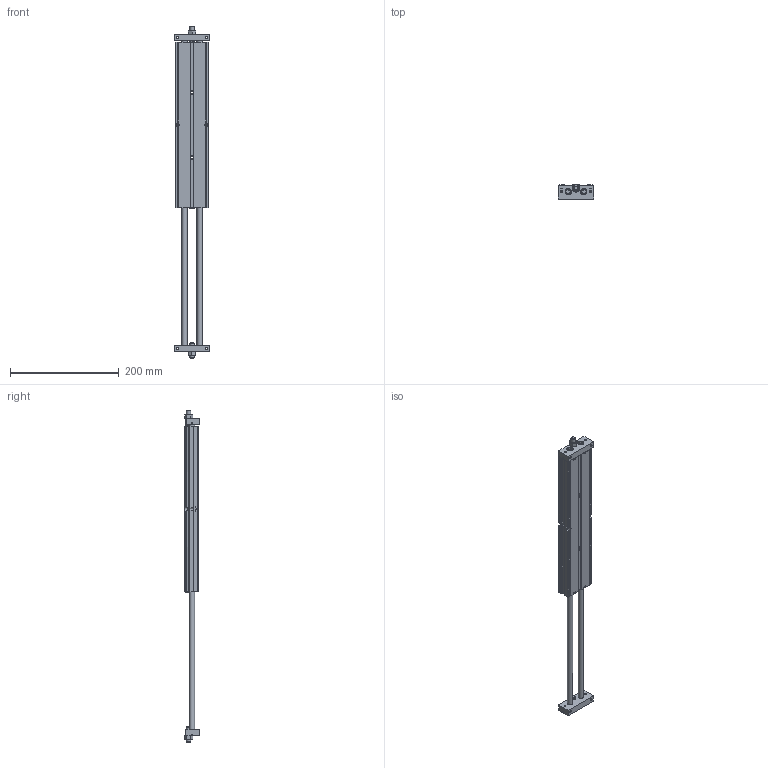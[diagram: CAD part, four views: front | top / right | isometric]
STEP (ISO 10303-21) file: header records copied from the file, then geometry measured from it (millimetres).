
FILE_DESCRIPTION((''),'2;1');
FILE_NAME('I:\3D電子目錄\氣缸\STU\STU\STU20\STU20x250.stp','2007-10-01T10:40:01',('Administrator'),(''),'Autodesk Inventor 11','Autodesk Inventor 11','');
FILE_SCHEMA(('AUTOMOTIVE_DESIGN { 1 0 10303 214 1 1 1 1 }'));
Length unit declared in the file: millimetre
Products named in the file (1): STU20
Bounding box: 66 x 27.51 x 611.5 mm (x, y, z)
Volume: 496599.2 mm3; surface area: 110379.3 mm2
Topology: 1 solids, 1 shells, 345 faces, 855 edges, 543 vertices
Faces by surface type: plane 166, cone 75, bspline 71, cylinder 29, torus 4
Full cylindrical faces by diameter (mm): 2.459 x2, 8 x6, 10 x6, 11 x4, 22 x2, 23.2 x2
Entity records: 10978 total; most frequent: CARTESIAN_POINT 3643, ORIENTED_EDGE 1470, DIRECTION 1388, EDGE_CURVE 735, EDGE_LOOP 520, VERTEX_POINT 519, AXIS2_PLACEMENT_3D 510, VECTOR 368
